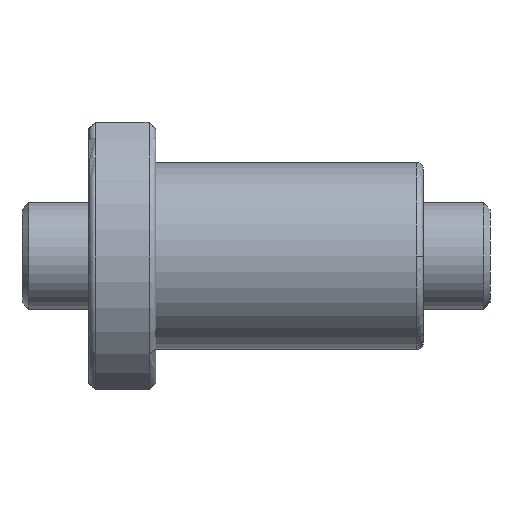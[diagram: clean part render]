
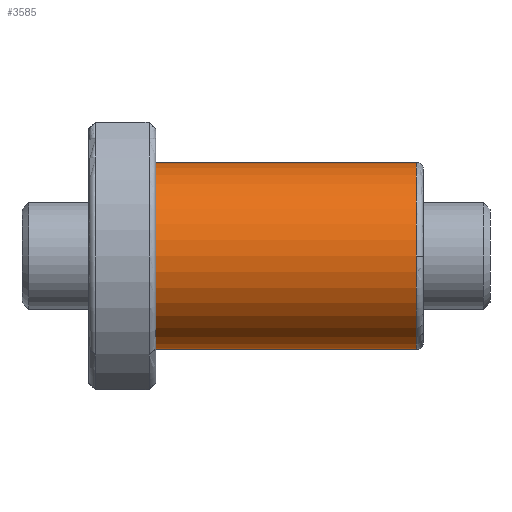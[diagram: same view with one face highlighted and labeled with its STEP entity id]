
A CAD part, front view. The second image highlights one B-rep face of the part: STEP entity #3585.
In plain terms, the highlighted cylindrical face has radius 14 mm (diameter 28 mm), a partial arc.
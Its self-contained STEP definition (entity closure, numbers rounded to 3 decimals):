
#279 = ORIENTED_EDGE ( 'NONE', *, *, #1813, .T. ) ;
#376 = FACE_OUTER_BOUND ( 'NONE', #3829, .T. ) ;
#484 = CARTESIAN_POINT ( 'NONE',  ( 50., 0., 0. ) ) ;
#498 = ORIENTED_EDGE ( 'NONE', *, *, #794, .F. ) ;
#559 = CARTESIAN_POINT ( 'NONE',  ( 49., 0., 14. ) ) ;
#639 = ORIENTED_EDGE ( 'NONE', *, *, #5135, .T. ) ;
#680 = DIRECTION ( 'NONE',  ( 0., 0., 1. ) ) ;
#794 = EDGE_CURVE ( 'NONE', #4629, #4939, #4867, .T. ) ;
#853 = CARTESIAN_POINT ( 'NONE',  ( 10., 0., -14. ) ) ;
#919 = VERTEX_POINT ( 'NONE', #1383 ) ;
#1064 = EDGE_CURVE ( 'NONE', #919, #3678, #2776, .T. ) ;
#1115 = DIRECTION ( 'NONE',  ( -1., 0., 0. ) ) ;
#1345 = AXIS2_PLACEMENT_3D ( 'NONE', #2084, #3792, #2982 ) ;
#1383 = CARTESIAN_POINT ( 'NONE',  ( 49., -14., 0. ) ) ;
#1638 = AXIS2_PLACEMENT_3D ( 'NONE', #1970, #2874, #1641 ) ;
#1641 = DIRECTION ( 'NONE',  ( 0., 0., 1. ) ) ;
#1813 = EDGE_CURVE ( 'NONE', #3941, #4939, #1865, .T. ) ;
#1865 = CIRCLE ( 'NONE', #1345, 14. ) ;
#1970 = CARTESIAN_POINT ( 'NONE',  ( 49., 0., 0. ) ) ;
#2052 = DIRECTION ( 'NONE',  ( -1., 0., 0. ) ) ;
#2084 = CARTESIAN_POINT ( 'NONE',  ( 10., 0., 0. ) ) ;
#2438 = ORIENTED_EDGE ( 'NONE', *, *, #4764, .T. ) ;
#2441 = AXIS2_PLACEMENT_3D ( 'NONE', #3169, #1115, #680 ) ;
#2529 = CARTESIAN_POINT ( 'NONE',  ( 50., 0., -14. ) ) ;
#2714 = VECTOR ( 'NONE', #2052, 1000. ) ;
#2776 = CIRCLE ( 'NONE', #2441, 14. ) ;
#2874 = DIRECTION ( 'NONE',  ( -1., 0., 0. ) ) ;
#2982 = DIRECTION ( 'NONE',  ( 0., 0., 1. ) ) ;
#3047 = CARTESIAN_POINT ( 'NONE',  ( 50., 0., 14. ) ) ;
#3169 = CARTESIAN_POINT ( 'NONE',  ( 49., 0., 0. ) ) ;
#3331 = ORIENTED_EDGE ( 'NONE', *, *, #1064, .T. ) ;
#3350 = CIRCLE ( 'NONE', #1638, 14. ) ;
#3392 = DIRECTION ( 'NONE',  ( 0., 0., 1. ) ) ;
#3473 = CARTESIAN_POINT ( 'NONE',  ( 49., 0., -14. ) ) ;
#3478 = VECTOR ( 'NONE', #4310, 1000. ) ;
#3511 = CARTESIAN_POINT ( 'NONE',  ( 10., 0., 14. ) ) ;
#3585 = ADVANCED_FACE ( 'NONE', ( #376 ), #5359, .T. ) ;
#3678 = VERTEX_POINT ( 'NONE', #559 ) ;
#3792 = DIRECTION ( 'NONE',  ( 1., 0., 0. ) ) ;
#3829 = EDGE_LOOP ( 'NONE', ( #498, #2438, #3331, #639, #279 ) ) ;
#3941 = VERTEX_POINT ( 'NONE', #3511 ) ;
#4169 = DIRECTION ( 'NONE',  ( -1., 0., 0. ) ) ;
#4310 = DIRECTION ( 'NONE',  ( -1., 0., 0. ) ) ;
#4522 = AXIS2_PLACEMENT_3D ( 'NONE', #484, #4169, #3392 ) ;
#4629 = VERTEX_POINT ( 'NONE', #3473 ) ;
#4764 = EDGE_CURVE ( 'NONE', #4629, #919, #3350, .T. ) ;
#4867 = LINE ( 'NONE', #2529, #2714 ) ;
#4939 = VERTEX_POINT ( 'NONE', #853 ) ;
#5135 = EDGE_CURVE ( 'NONE', #3678, #3941, #5230, .T. ) ;
#5230 = LINE ( 'NONE', #3047, #3478 ) ;
#5359 = CYLINDRICAL_SURFACE ( 'NONE', #4522, 14. ) ;
